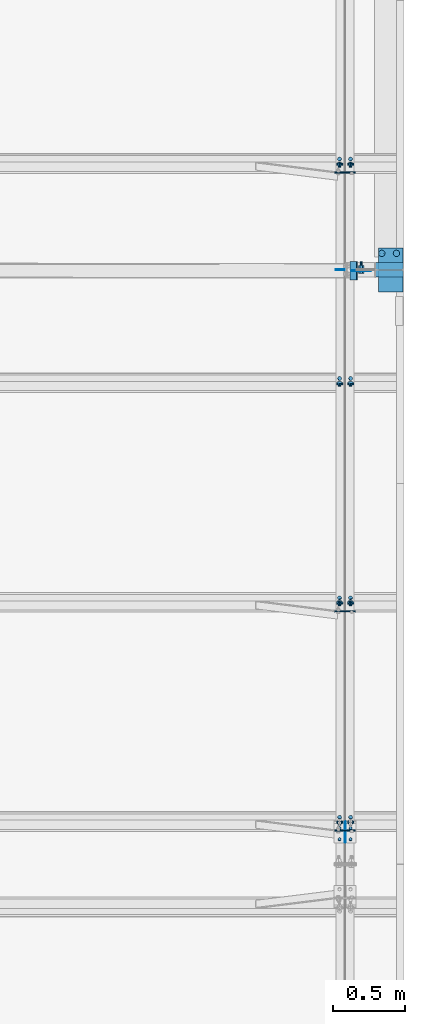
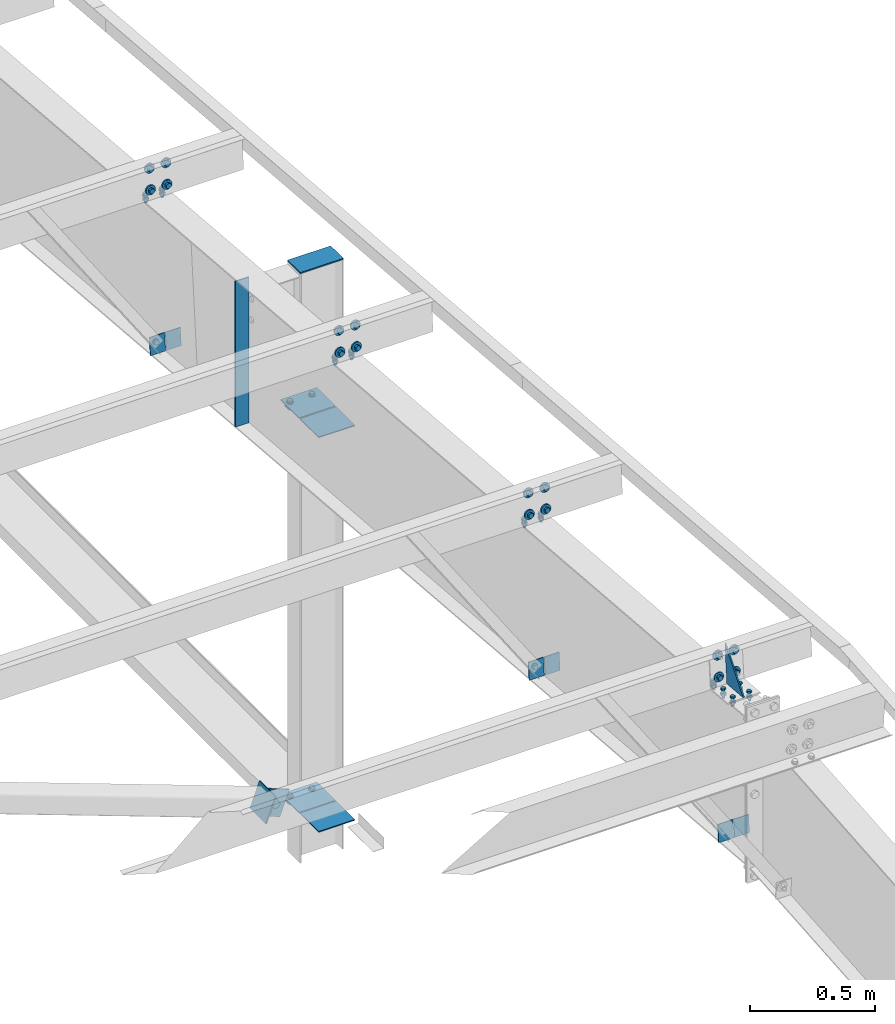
# One storey, part 111 of 185: 16 mechanical fasteners, 15 discrete accessories, 8 elements without a shape of their own.
"""IFC2X3 building model written with IfcOpenShell, lengths in millimetres."""

import ifcopenshell
import ifcopenshell.guid

model = None  # the IFC model being written
_history = None  # IfcOwnerHistory: only IFC2X3 demands one
_inside = {}  # id of a spatial element -> (the spatial element, [elements in it])
_under = {}  # id of a project, library or spatial element -> (it, [spatial elements below it])
_declared = {}  # id of a project -> (the project, [libraries it declares])
_typed = {}  # id of a type object -> (the type object, [elements of that type])
_made_of = {}  # id of a material, layer set ... -> (it, [elements and type objects made of it])


def new_model(schema):
    """Start an empty IFC model of exactly this schema.

    Asked for "IFC4X3", IfcOpenShell would pick the latest addendum, in which some entities
    have other attributes; the version numbers below select the first issue.
    IFC2X3 requires an IfcOwnerHistory on every rooted entity: one is made here for all.
    """
    global model, _history
    if schema == "IFC4X3":
        model = ifcopenshell.file(schema_version=(4, 3, 0, 0))
    else:
        model = ifcopenshell.file(schema=schema)
    _inside.clear()
    _under.clear()
    _declared.clear()
    _typed.clear()
    _made_of.clear()
    _history = None
    if model.schema == "IFC2X3":
        org = make("IfcOrganization", Name="unknown")
        user = make(
            "IfcPersonAndOrganization",
            ThePerson=make("IfcPerson", FamilyName="unknown"),
            TheOrganization=org,
        )
        app = make(
            "IfcApplication",
            ApplicationDeveloper=org,
            Version="unknown",
            ApplicationFullName="unknown",
            ApplicationIdentifier="unknown",
        )
        _history = make(
            "IfcOwnerHistory",
            OwningUser=user,
            OwningApplication=app,
            ChangeAction="ADDED",
            CreationDate=0,
        )
    return model


def make(cls, **values):
    """One entity of the class cls with the attributes given. An attribute that is None is left unset."""
    return model.create_entity(
        cls, **{name: value for name, value in values.items() if value is not None}
    )


def rooted(cls, **values):
    """An entity with a GlobalId (a new one), such as an element, a storey or a relation."""
    return make(cls, GlobalId=ifcopenshell.guid.new(), OwnerHistory=_history, **values)


def si_unit(unit_type, name, prefix=None):
    """IfcSIUnit, for example si_unit("LENGTHUNIT", "METRE", prefix="MILLI")."""
    return make("IfcSIUnit", UnitType=unit_type, Prefix=prefix, Name=name)


def assignment(units):
    """IfcUnitAssignment: the units of a project."""
    return None if units is None else make("IfcUnitAssignment", Units=units)


def point(xyz):
    """IfcCartesianPoint."""
    return None if xyz is None else make("IfcCartesianPoint", Coordinates=xyz)


def direction(xyz):
    """IfcDirection."""
    return None if xyz is None else make("IfcDirection", DirectionRatios=xyz)


def frame(location, z_axis=None, x_axis=None):
    """IfcAxis2Placement3D, a coordinate frame: its origin and axes. An axis left out is left unset."""
    return make(
        "IfcAxis2Placement3D",
        Location=point(location),
        Axis=direction(z_axis),
        RefDirection=direction(x_axis),
    )


def frame_2d(location, x_axis=None):
    """IfcAxis2Placement2D, a coordinate frame in the plane: its origin and x axis."""
    return make(
        "IfcAxis2Placement2D", Location=point(location), RefDirection=direction(x_axis)
    )


def origin_with_axes():
    """The frame at (0, 0, 0) with the z axis (0, 0, 1) and the x axis (1, 0, 0) written out."""
    return frame((0.0, 0.0, 0.0), z_axis=(0.0, 0.0, 1.0), x_axis=(1.0, 0.0, 0.0))


def origin_2d_with_axis():
    """The frame at (0, 0) in the plane with the x axis (1, 0) written out."""
    return frame_2d((0.0, 0.0), x_axis=(1.0, 0.0))


def place(relative_to, where):
    """IfcLocalPlacement: puts the frame where relative to a parent placement (None: the world)."""
    return make(
        "IfcLocalPlacement", PlacementRelTo=relative_to, RelativePlacement=where
    )


def context(
    kind, dimensions, precision=None, world=None, true_north=None, identifier=None
):
    """IfcGeometricRepresentationContext, for example the 3D "Model" context."""
    return make(
        "IfcGeometricRepresentationContext",
        ContextIdentifier=identifier,
        ContextType=kind,
        CoordinateSpaceDimension=dimensions,
        Precision=precision,
        WorldCoordinateSystem=world,
        TrueNorth=true_north,
    )


def subcontext(parent, identifier, kind, view, scale=None):
    """IfcGeometricRepresentationSubContext, for example "Body" below "Model"."""
    return make(
        "IfcGeometricRepresentationSubContext",
        ContextIdentifier=identifier,
        ContextType=kind,
        ParentContext=parent,
        TargetScale=scale,
        TargetView=view,
    )


def project(units=None, contexts=None):
    """IfcProject with its units and contexts."""
    return rooted(
        "IfcProject",
        Name="project",
        RepresentationContexts=contexts,
        UnitsInContext=assignment(units),
    )


def spatial(cls, under=None, at=None, **own):
    """A site, building, storey or space (cls), placed at a placement, below another one or the project."""
    s = rooted(cls, ObjectPlacement=at, **own)
    if under is not None:
        _under.setdefault(under.id(), (under, []))[1].append(s)
    return s


def polyline(points):
    """IfcPolyline through the points."""
    return make("IfcPolyline", Points=[point(p) for p in points])


def circle_curve(where, radius):
    """IfcCircle in the frame where."""
    return make("IfcCircle", Position=where, Radius=radius)


def parameter(value):
    """IfcParameterValue: where a trimmed curve begins or ends, as a parameter of its basis curve."""
    return model.create_entity("IfcParameterValue", value)


def trimmed(basis, trim1, trim2, sense, master):
    """IfcTrimmedCurve: the piece of a basis curve between two trims."""
    return make(
        "IfcTrimmedCurve",
        BasisCurve=basis,
        Trim1=trim1,
        Trim2=trim2,
        SenseAgreement=sense,
        MasterRepresentation=master,
    )


def segment(curve, same_sense, transition):
    """IfcCompositeCurveSegment."""
    return make(
        "IfcCompositeCurveSegment",
        Transition=transition,
        SameSense=same_sense,
        ParentCurve=curve,
    )


def composite_curve(segments, self_intersect=None):
    """IfcCompositeCurve: segments joined end to end."""
    return make("IfcCompositeCurve", Segments=segments, SelfIntersect=self_intersect)


def profile(cls, at=None, kind="AREA", **sizes):
    """A parametric profile (cls). Its sizes go by their IFC names, for example OverallWidth=200.0."""
    return make(cls, ProfileType=kind, Position=at, **sizes)


def rectangle(**sizes):
    """IfcRectangleProfileDef."""
    return profile("IfcRectangleProfileDef", **sizes)


def circle(**sizes):
    """IfcCircleProfileDef."""
    return profile("IfcCircleProfileDef", **sizes)


def outline(outer, holes=None, kind="AREA"):
    """IfcArbitraryClosedProfileDef: a profile drawn as a closed curve; with holes, ...WithVoids."""
    if holes is None:
        return make("IfcArbitraryClosedProfileDef", ProfileType=kind, OuterCurve=outer)
    return make(
        "IfcArbitraryProfileDefWithVoids",
        ProfileType=kind,
        OuterCurve=outer,
        InnerCurves=holes,
    )


def extrude(swept, where, along, depth):
    """IfcExtrudedAreaSolid: the profile swept, set in the frame where, extruded along a direction by depth."""
    return make(
        "IfcExtrudedAreaSolid",
        SweptArea=swept,
        Position=where,
        ExtrudedDirection=direction(along),
        Depth=depth,
    )


def shape(context_of_items, identifier, shape_type, items):
    """IfcShapeRepresentation: the items that make up one representation, for example the "Body"."""
    return make(
        "IfcShapeRepresentation",
        ContextOfItems=context_of_items,
        RepresentationIdentifier=identifier,
        RepresentationType=shape_type,
        Items=items,
    )


def source(mapping_origin, context_of_items, identifier, shape_type, items):
    """IfcRepresentationMap: a shape defined once, which mapped items show again and again."""
    return make(
        "IfcRepresentationMap",
        MappingOrigin=mapping_origin,
        MappedRepresentation=shape(context_of_items, identifier, shape_type, items),
    )


def transform(
    local_origin,
    x_axis=None,
    y_axis=None,
    z_axis=None,
    scale=None,
    scale2=None,
    scale3=None,
    uniform=True,
):
    """IfcCartesianTransformationOperator3D, or its non-uniform kind. x_axis, y_axis, z_axis: its Axis1, 2, 3."""
    if uniform:
        return make(
            "IfcCartesianTransformationOperator3D",
            Axis1=direction(x_axis),
            Axis2=direction(y_axis),
            LocalOrigin=point(local_origin),
            Scale=scale,
            Axis3=direction(z_axis),
        )
    return make(
        "IfcCartesianTransformationOperator3DnonUniform",
        Axis1=direction(x_axis),
        Axis2=direction(y_axis),
        LocalOrigin=point(local_origin),
        Scale=scale,
        Axis3=direction(z_axis),
        Scale2=scale2,
        Scale3=scale3,
    )


def mapped(mapping_source, mapping_target):
    """IfcMappedItem: shows the shape of a source again, moved by a transform."""
    return make(
        "IfcMappedItem", MappingSource=mapping_source, MappingTarget=mapping_target
    )


def material(Name=None, Category=None):
    """IfcMaterial."""
    return make("IfcMaterial", Name=Name, Category=Category)


def made_of(thing, what):
    """Note that an element or type object is made of a material, layer set ...; save() writes the relation."""
    if what is not None:
        _made_of.setdefault(what.id(), (what, []))[1].append(thing)
    return thing


def type_object(cls, material=None, **own):
    """A type object (cls), such as IfcWallType, which elements share."""
    return made_of(rooted(cls, **own), material)


def element(
    cls,
    number,
    at=None,
    inside=None,
    cuts=None,
    type_object=None,
    material=None,
    context=None,
    identifier="Body",
    shape_type=None,
    held_by="IfcProductDefinitionShape",
    body=None,
    shapes=None,
    **own,
):
    """One element of the class cls, such as IfcWall. Its Tag is "e" and its number.

    at: its placement. inside: the storey or other place that contains it. cuts: it is an
    opening in that element (IfcRelVoidsElement). A single representation is given by context,
    identifier, shape_type and body (its items); several are given by shapes. held_by: the class
    of the entity that holds the representations. save() writes the other relations.
    """
    e = rooted(cls, Tag="e%d" % number, ObjectPlacement=at, **own)
    if body is not None:
        shapes = [shape(context, identifier, shape_type, body)]
    if shapes is not None:
        e.Representation = make(held_by, Representations=shapes)
    if inside is not None:
        _inside.setdefault(inside.id(), (inside, []))[1].append(e)
    if cuts is not None:
        rooted(
            "IfcRelVoidsElement", RelatingBuildingElement=cuts, RelatedOpeningElement=e
        )
    if type_object is not None:
        _typed.setdefault(type_object.id(), (type_object, []))[1].append(e)
    return made_of(e, material)


def aggregate(whole, parts):
    """IfcRelAggregates: a whole, such as a stair, and the parts it consists of."""
    return rooted("IfcRelAggregates", RelatingObject=whole, RelatedObjects=parts)


def save(model, path):
    """Write the relations noted so far, then the file.

    IfcRelAggregates (storeys below a building ...), IfcRelContainedInSpatialStructure (elements
    in a storey), IfcRelDefinesByType, IfcRelAssociatesMaterial and IfcRelDeclares: one each for
    every whole, place, type object, material and project.
    """
    for whole, parts in _under.values():
        aggregate(whole, parts)
    for where, things in _inside.values():
        rooted(
            "IfcRelContainedInSpatialStructure",
            RelatedElements=things,
            RelatingStructure=where,
        )
    for kind, things in _typed.values():
        rooted("IfcRelDefinesByType", RelatedObjects=things, RelatingType=kind)
    for what, things in _made_of.values():
        rooted("IfcRelAssociatesMaterial", RelatedObjects=things, RelatingMaterial=what)
    for by, libraries in _declared.values():
        rooted("IfcRelDeclares", RelatingContext=by, RelatedDefinitions=libraries)
    model.write(path)


model = new_model("IFC2X3")

# Units and contexts
model_context = context("Model", 3, precision=1e-05, world=origin_with_axes())
body_context = subcontext(model_context, "Body", "Model", "MODEL_VIEW")
ifc_project = project(units=[si_unit("LENGTHUNIT", "METRE", prefix="MILLI"), si_unit("AREAUNIT", "SQUARE_METRE"), si_unit("VOLUMEUNIT", "CUBIC_METRE"), si_unit("MASSUNIT", "GRAM", prefix="KILO"), si_unit("TIMEUNIT", "SECOND"), si_unit("PLANEANGLEUNIT", "RADIAN"), si_unit("SOLIDANGLEUNIT", "STERADIAN"), si_unit("THERMODYNAMICTEMPERATUREUNIT", "DEGREE_CELSIUS"), si_unit("LUMINOUSINTENSITYUNIT", "LUMEN")], contexts=[model_context])

# Site, building, storey
site_placement = place(None, origin_with_axes())
site = spatial("IfcSite", under=ifc_project, at=site_placement, Name="Undefined", CompositionType="ELEMENT")
building_placement = place(site_placement, origin_with_axes())
building = spatial("IfcBuilding", under=site, at=building_placement, Name="Undefined", CompositionType="ELEMENT")
storey_placement = place(building_placement, origin_with_axes())
storey = spatial("IfcBuildingStorey", under=building, at=storey_placement, Name="Undefined", CompositionType="ELEMENT", Elevation=0.0)

# Assembly, discrete accessories
assembly_1_placement = place(storey_placement, origin_with_axes())
assembly_1 = element("IfcElementAssembly", 1, at=assembly_1_placement, inside=storey, Name="Steel Assembly", AssemblyPlace="NOTDEFINED", PredefinedType="RIGID_FRAME")
ifc_material_1 = material(Name="STEEL/55")
discrete_accessory_type_1 = type_object("IfcDiscreteAccessoryType", Name="XP-38")
discrete_accessory_1_placement = place(assembly_1_placement, frame((44868.703125, 20113.702788, 6098.38125), z_axis=(-1.0, 0.0, 0.0), x_axis=(0.0, -1.0, 0.0)))
discrete_accessory_1 = element("IfcDiscreteAccessory", 2, at=discrete_accessory_1_placement, type_object=discrete_accessory_type_1, material=ifc_material_1, Name="XP-38", ObjectType="PL3/16\"X5 7/8\"", context=body_context, shape_type="SweptSolid", body=[
    extrude(rectangle(XDim=4.7625, YDim=168.275, at=origin_2d_with_axis()), frame((149.224999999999, 0.0, 0.0), z_axis=(-1.0, 0.0, 0.0), x_axis=(0.0, -1.0, 0.0)), (0.0, 0.0, 1.0), 149.2),
])
discrete_accessory_2_placement = place(assembly_1_placement, frame((44868.703125, 20119.897212, 6098.38125), z_axis=(-1.0, 0.0, 0.0), x_axis=(0.0, 1.0, 0.0)))
discrete_accessory_2 = element("IfcDiscreteAccessory", 3, at=discrete_accessory_2_placement, type_object=discrete_accessory_type_1, material=ifc_material_1, Name="XP-38", ObjectType="PL3/16\"X5 7/8\"", context=body_context, shape_type="SweptSolid", body=[
    extrude(rectangle(XDim=4.7625, YDim=168.275, at=origin_2d_with_axis()), frame((149.224999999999, 0.0, 0.0), z_axis=(-1.0, 0.0, 0.0), x_axis=(0.0, -1.0, 0.0)), (0.0, 0.0, 1.0), 149.2),
])
discrete_accessory_3_placement = place(assembly_1_placement, frame((44868.703125, 20113.702788, 4167.98125), z_axis=(-1.0, 0.0, 0.0), x_axis=(0.0, -1.0, 0.0)))
discrete_accessory_3 = element("IfcDiscreteAccessory", 4, at=discrete_accessory_3_placement, type_object=discrete_accessory_type_1, material=ifc_material_1, Name="XP-38", ObjectType="PL3/16\"X5 7/8\"", context=body_context, shape_type="SweptSolid", body=[
    extrude(rectangle(XDim=4.7625, YDim=168.275, at=origin_2d_with_axis()), frame((149.224999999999, 0.0, 0.0), z_axis=(-1.0, 0.0, 0.0), x_axis=(0.0, -1.0, 0.0)), (0.0, 0.0, 1.0), 149.2),
])
discrete_accessory_4_placement = place(assembly_1_placement, frame((44868.703125, 20119.897212, 4167.98125), z_axis=(-1.0, 0.0, 0.0), x_axis=(0.0, 1.0, 0.0)))
discrete_accessory_4 = element("IfcDiscreteAccessory", 5, at=discrete_accessory_4_placement, type_object=discrete_accessory_type_1, material=ifc_material_1, Name="XP-38", ObjectType="PL3/16\"X5 7/8\"", context=body_context, shape_type="SweptSolid", body=[
    extrude(rectangle(XDim=4.7625, YDim=168.275, at=origin_2d_with_axis()), frame((149.224999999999, 0.0, 0.0), z_axis=(-1.0, 0.0, 0.0), x_axis=(0.0, -1.0, 0.0)), (0.0, 0.0, 1.0), 149.2),
])

# Assembly, discrete accessory
assembly_2_placement = place(storey_placement, origin_with_axes())
assembly_2 = element("IfcElementAssembly", 6, at=assembly_2_placement, inside=storey, Name="Steel Assembly", AssemblyPlace="NOTDEFINED", PredefinedType="RIGID_FRAME")
discrete_accessory_type_2 = type_object("IfcDiscreteAccessoryType", Name="Stiff")
discrete_accessory_5_placement = place(assembly_2_placement, frame((44517.469, 20116.8054741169, 6875.85891866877), z_axis=(-1.0, 0.0, 0.0), x_axis=(0.0, 0.0, -1.0)))
discrete_accessory_5 = element("IfcDiscreteAccessory", 7, at=discrete_accessory_5_placement, type_object=discrete_accessory_type_2, material=ifc_material_1, Name="Stiff", ObjectType="FL1/4\"X2 1/2\"", context=body_context, shape_type="SweptSolid", body=[
    extrude(rectangle(XDim=6.35, YDim=63.5, at=origin_2d_with_axis()), frame((712.793737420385, 0.0, 0.0), z_axis=(-1.0, 0.0, 0.0), x_axis=(0.0, -1.0, 0.0)), (0.0, 0.0, 1.0), 712.8),
])

# Assembly, mechanical fasteners
assembly_3_placement = place(storey_placement, origin_with_axes())
assembly_3 = element("IfcElementAssembly", 8, at=assembly_3_placement, inside=storey, Name="Steel Assembly", AssemblyPlace="NOTDEFINED", PredefinedType="RIGID_FRAME")
ifc_material_2 = material(Name="Undefined")
discrete_accessory_type_3 = type_object("IfcDiscreteAccessoryType", Name="Bolt assembly")
shared_shape_1 = source(origin_with_axes(), body_context, "Body", "SweptSolid", [
    extrude(circle(Radius=7.14374971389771, at=origin_2d_with_axis()), frame((0.0, -1.59000001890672, 0.0), z_axis=(0.0, 1.0, 0.0), x_axis=(1.0, 0.0, 0.0)), (0.0, 0.0, 1.0), 3.3),
    extrude(circle(Radius=13.4937496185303, at=origin_2d_with_axis()), frame((0.0, -5.5587500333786, 0.0), z_axis=(0.0, 1.0, 0.0), x_axis=(1.0, 0.0, 0.0)), (0.0, 0.0, 1.0), 4.0),
    extrude(circle(Radius=22.2250003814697, at=origin_2d_with_axis()), frame((0.0, 1.5900000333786, 0.0), z_axis=(0.0, 1.0, 0.0), x_axis=(1.0, 0.0, 0.0)), (0.0, 0.0, 1.0), 7.9),
    extrude(outline(polyline([(12.8316099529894, 0.0), (6.4158049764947, 11.1125001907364), (-6.4158049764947, 11.1125001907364), (-12.8316099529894, 0.0), (-6.4158049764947, -11.1125001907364), (6.4158049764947, -11.1125001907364), (12.8316099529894, 0.0)])), frame((0.0, 9.5275000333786, 0.0), z_axis=(0.0, 1.0, 0.0), x_axis=(1.0, 0.0, 0.0)), (0.0, 0.0, 1.0), 12.3),
])
mechanical_fastener_1_placement = place(assembly_3_placement, frame((44513.5, 20857.735218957, 6973.87931659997), z_axis=(-1.0, 0.0, 0.0), x_axis=(0.0, -0.0830454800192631, -0.996545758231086)))
mechanical_fastener_1 = element("IfcMechanicalFastener", 9, at=mechanical_fastener_1_placement, type_object=discrete_accessory_type_3, material=ifc_material_2, Name="Bolt assembly", NominalDiameter=12.6999998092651, NominalLength=38.0999984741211, context=body_context, shape_type="MappedRepresentation", body=[
    mapped(shared_shape_1, transform((0.0, 0.0, 0.0))),
    mapped(shared_shape_1, transform((101.599998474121, 0.0, 0.0))),
])
mechanical_fastener_2_placement = place(assembly_3_placement, frame((44589.7, 20857.735218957, 6973.87931659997), z_axis=(-1.0, 0.0, 0.0), x_axis=(0.0, -0.0830454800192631, -0.996545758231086)))
mechanical_fastener_2 = element("IfcMechanicalFastener", 10, at=mechanical_fastener_2_placement, type_object=discrete_accessory_type_3, material=ifc_material_2, Name="Bolt assembly", NominalDiameter=12.6999998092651, NominalLength=38.0999984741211, context=body_context, shape_type="MappedRepresentation", body=[
    mapped(shared_shape_1, transform((0.0, 0.0, 0.0))),
    mapped(shared_shape_1, transform((101.599998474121, 0.0, 0.0))),
])

assembly_4_placement = place(storey_placement, origin_with_axes())
assembly_4 = element("IfcElementAssembly", 11, at=assembly_4_placement, inside=storey, Name="Steel Assembly", AssemblyPlace="NOTDEFINED", PredefinedType="RIGID_FRAME")
mechanical_fastener_3_placement = place(assembly_4_placement, frame((44513.5, 19338.999483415, 7100.44062815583), z_axis=(-1.0, 0.0, 0.0), x_axis=(0.0, -0.0830454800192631, -0.996545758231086)))
mechanical_fastener_3 = element("IfcMechanicalFastener", 12, at=mechanical_fastener_3_placement, type_object=discrete_accessory_type_3, material=ifc_material_2, Name="Bolt assembly", NominalDiameter=12.6999998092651, NominalLength=38.0999984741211, context=body_context, shape_type="MappedRepresentation", body=[
    mapped(shared_shape_1, transform((0.0, 0.0, 0.0))),
    mapped(shared_shape_1, transform((101.599998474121, 0.0, 0.0))),
])
mechanical_fastener_4_placement = place(assembly_4_placement, frame((44589.7, 19338.999483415, 7100.44062815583), z_axis=(-1.0, 0.0, 0.0), x_axis=(0.0, -0.0830454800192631, -0.996545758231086)))
mechanical_fastener_4 = element("IfcMechanicalFastener", 13, at=mechanical_fastener_4_placement, type_object=discrete_accessory_type_3, material=ifc_material_2, Name="Bolt assembly", NominalDiameter=12.6999998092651, NominalLength=38.0999984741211, context=body_context, shape_type="MappedRepresentation", body=[
    mapped(shared_shape_1, transform((0.0, 0.0, 0.0))),
    mapped(shared_shape_1, transform((101.599998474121, 0.0, 0.0))),
])

assembly_5_placement = place(storey_placement, origin_with_axes())
assembly_5 = element("IfcElementAssembly", 14, at=assembly_5_placement, inside=storey, Name="Steel Assembly", AssemblyPlace="NOTDEFINED", PredefinedType="RIGID_FRAME")
mechanical_fastener_5_placement = place(assembly_5_placement, frame((44513.5, 17820.263747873, 7227.00193971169), z_axis=(-1.0, 0.0, 0.0), x_axis=(0.0, -0.0830454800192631, -0.996545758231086)))
mechanical_fastener_5 = element("IfcMechanicalFastener", 15, at=mechanical_fastener_5_placement, type_object=discrete_accessory_type_3, material=ifc_material_2, Name="Bolt assembly", NominalDiameter=12.6999998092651, NominalLength=38.0999984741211, context=body_context, shape_type="MappedRepresentation", body=[
    mapped(shared_shape_1, transform((0.0, 0.0, 0.0))),
    mapped(shared_shape_1, transform((101.599998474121, 0.0, 0.0))),
])
mechanical_fastener_6_placement = place(assembly_5_placement, frame((44589.7, 17820.263747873, 7227.00193971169), z_axis=(-1.0, 0.0, 0.0), x_axis=(0.0, -0.0830454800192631, -0.996545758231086)))
mechanical_fastener_6 = element("IfcMechanicalFastener", 16, at=mechanical_fastener_6_placement, type_object=discrete_accessory_type_3, material=ifc_material_2, Name="Bolt assembly", NominalDiameter=12.6999998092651, NominalLength=38.0999984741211, context=body_context, shape_type="MappedRepresentation", body=[
    mapped(shared_shape_1, transform((0.0, 0.0, 0.0))),
    mapped(shared_shape_1, transform((101.599998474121, 0.0, 0.0))),
])

assembly_6_placement = place(storey_placement, origin_with_axes())
assembly_6 = element("IfcElementAssembly", 17, at=assembly_6_placement, inside=storey, Name="Steel Assembly", AssemblyPlace="NOTDEFINED", PredefinedType="RIGID_FRAME")
mechanical_fastener_7_placement = place(assembly_6_placement, frame((44513.5, 16301.5280123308, 7353.56325126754), z_axis=(-1.0, 0.0, 0.0), x_axis=(0.0, -0.0830454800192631, -0.996545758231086)))
mechanical_fastener_7 = element("IfcMechanicalFastener", 18, at=mechanical_fastener_7_placement, type_object=discrete_accessory_type_3, material=ifc_material_2, Name="Bolt assembly", NominalDiameter=12.6999998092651, NominalLength=38.0999984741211, context=body_context, shape_type="MappedRepresentation", body=[
    mapped(shared_shape_1, transform((0.0, 0.0, 0.0))),
    mapped(shared_shape_1, transform((101.599998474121, 0.0, 0.0))),
])
mechanical_fastener_8_placement = place(assembly_6_placement, frame((44589.7, 16301.5280123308, 7353.56325126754), z_axis=(-1.0, 0.0, 0.0), x_axis=(0.0, -0.0830454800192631, -0.996545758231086)))
mechanical_fastener_8 = element("IfcMechanicalFastener", 19, at=mechanical_fastener_8_placement, type_object=discrete_accessory_type_3, material=ifc_material_2, Name="Bolt assembly", NominalDiameter=12.6999998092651, NominalLength=38.0999984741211, context=body_context, shape_type="MappedRepresentation", body=[
    mapped(shared_shape_1, transform((0.0, 0.0, 0.0))),
    mapped(shared_shape_1, transform((101.599998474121, 0.0, 0.0))),
])

# Assembly, discrete accessories
assembly_7_placement = place(storey_placement, origin_with_axes())
assembly_7 = element("IfcElementAssembly", 20, at=assembly_7_placement, inside=storey, Name="Steel Assembly", AssemblyPlace="NOTDEFINED", PredefinedType="RIGID_FRAME")
discrete_accessory_type_4 = type_object("IfcDiscreteAccessoryType", Name="PLATE")
discrete_accessory_6_placement = place(assembly_7_placement, frame((44684.6031590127, 20110.8379977, 4326.01829643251), z_axis=(0.938772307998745, -0.000380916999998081, -0.34453796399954), x_axis=(-0.344537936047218, 0.000139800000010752, -0.938772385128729)))
discrete_accessory_6 = element("IfcDiscreteAccessory", 21, at=discrete_accessory_6_placement, type_object=discrete_accessory_type_4, material=ifc_material_1, Name="PLATE", ObjectType="FL1/4\"X4\"", context=body_context, shape_type="SweptSolid", body=[
    extrude(rectangle(XDim=6.35, YDim=101.6, at=origin_2d_with_axis()), frame((127.000000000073, 3.63797855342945e-12, 7.27595761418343e-12), z_axis=(-1.0, 0.0, 0.0), x_axis=(0.0, -1.0, 0.0)), (0.0, 0.0, 1.0), 127.0),
])
discrete_accessory_7_placement = place(assembly_7_placement, frame((44590.1766058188, 20110.8763122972, 4225.39064015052), z_axis=(-0.000405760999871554, -0.999999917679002, 0.0), x_axis=(0.344537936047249, -0.000139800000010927, 0.938772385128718)))
discrete_accessory_7 = element("IfcDiscreteAccessory", 22, at=discrete_accessory_7_placement, type_object=discrete_accessory_type_4, material=ifc_material_1, Name="PLATE", ObjectType="FL1/4\"X5\"", context=body_context, shape_type="SweptSolid", body=[
    extrude(rectangle(XDim=6.35, YDim=127.0, at=origin_2d_with_axis()), frame((127.000000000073, 3.63797855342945e-12, 7.27595761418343e-12), z_axis=(-1.0, 0.0, 0.0), x_axis=(0.0, -1.0, 0.0)), (0.0, 0.0, 1.0), 127.0),
])
aggregate(assembly_7, [discrete_accessory_6, discrete_accessory_7])

# Discrete accessory
discrete_accessory_8_placement = place(assembly_1_placement, frame((44958.0, 20116.8, 6850.0625), z_axis=(0.0, -1.0, 0.0), x_axis=(-1.0, 0.0, 0.0)))
discrete_accessory_8 = element("IfcDiscreteAccessory", 23, at=discrete_accessory_8_placement, type_object=discrete_accessory_type_4, material=ifc_material_1, Name="PLATE", ObjectType="FL1/4\"X4\"", context=body_context, shape_type="SweptSolid", body=[
    extrude(rectangle(XDim=6.35, YDim=101.6, at=origin_2d_with_axis()), frame((200.025000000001, 0.0, 0.0), z_axis=(-1.0, 0.0, 0.0), x_axis=(0.0, -1.0, 0.0)), (0.0, 0.0, 1.0), 200.0),
])

# Assembly, discrete accessory
assembly_8_placement = place(storey_placement, origin_with_axes())
assembly_8 = element("IfcElementAssembly", 24, at=assembly_8_placement, inside=storey, Name="Steel Assembly", AssemblyPlace="NOTDEFINED", PredefinedType="RIGID_FRAME")
discrete_accessory_9_placement = place(assembly_8_placement, frame((44551.6, 16150.1817775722, 7219.61919681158), z_axis=(1.0, 0.0, 0.0), x_axis=(0.0, 0.996545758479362, -0.0830454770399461)))
discrete_accessory_9 = element("IfcDiscreteAccessory", 25, at=discrete_accessory_9_placement, type_object=discrete_accessory_type_4, material=ifc_material_1, Name="PLATE", ObjectType="FL1/4\"X5 1/4\"", context=body_context, shape_type="SweptSolid", body=[
    extrude(outline(polyline([(0.0, 0.0), (133.350006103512, 3.70164343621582e-10), (133.350006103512, 190.500000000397), (0.0, 0.0)])), frame((0.0, -9.09494701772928e-13, -3.2), z_axis=(0.0, 0.0, 1.0), x_axis=(1.0, 0.0, 0.0)), (0.0, 0.0, 1.0), 6.4),
])

# Discrete accessory
discrete_accessory_type_5 = type_object("IfcDiscreteAccessoryType", Name="FLANGE BRACE FLIP")
discrete_accessory_10_placement = place(assembly_2_placement, frame((44549.89185, 16234.5442340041, 6529.19086769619), z_axis=(0.0, 0.0830454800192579, 0.996545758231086), x_axis=(-1.0, 0.0, 0.0)))
discrete_accessory_10 = element("IfcDiscreteAccessory", 26, at=discrete_accessory_10_placement, type_object=discrete_accessory_type_5, material=ifc_material_1, Name="FLANGE BRACE FLIP", ObjectType="PL1/8\"X2 3/4\"", context=body_context, shape_type="SweptSolid", body=[
    extrude(rectangle(XDim=3.416, YDim=85.725, at=origin_2d_with_axis()), frame((69.8499999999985, 0.0, 0.0), z_axis=(-1.0, 0.0, 0.0), x_axis=(0.0, -1.0, 0.0)), (0.0, 0.0, 1.0), 69.8),
])

discrete_accessory_11_placement = place(assembly_2_placement, frame((44553.30815, 16234.5442340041, 6529.19086769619), z_axis=(0.0, 0.0830454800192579, 0.996545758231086), x_axis=(1.0, 0.0, 0.0)))
discrete_accessory_11 = element("IfcDiscreteAccessory", 27, at=discrete_accessory_11_placement, type_object=discrete_accessory_type_5, material=ifc_material_1, Name="FLANGE BRACE FLIP", ObjectType="PL1/8\"X2 3/4\"", context=body_context, shape_type="SweptSolid", body=[
    extrude(rectangle(XDim=3.416, YDim=85.725, at=origin_2d_with_axis()), frame((69.8499999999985, 0.0, 0.0), z_axis=(-1.0, 0.0, 0.0), x_axis=(0.0, -1.0, 0.0)), (0.0, 0.0, 1.0), 69.8),
])

discrete_accessory_12_placement = place(assembly_2_placement, frame((44549.89185, 17753.2799695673, 6402.62955639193), z_axis=(0.0, 0.0830454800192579, 0.996545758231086), x_axis=(-1.0, 0.0, 0.0)))
discrete_accessory_12 = element("IfcDiscreteAccessory", 28, at=discrete_accessory_12_placement, type_object=discrete_accessory_type_5, material=ifc_material_1, Name="FLANGE BRACE FLIP", ObjectType="PL1/8\"X2 3/4\"", context=body_context, shape_type="SweptSolid", body=[
    extrude(rectangle(XDim=3.416, YDim=85.725, at=origin_2d_with_axis()), frame((69.8499999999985, 0.0, 0.0), z_axis=(-1.0, 0.0, 0.0), x_axis=(0.0, -1.0, 0.0)), (0.0, 0.0, 1.0), 69.8),
])

discrete_accessory_13_placement = place(assembly_2_placement, frame((44553.30815, 17753.2799695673, 6402.62955639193), z_axis=(0.0, 0.0830454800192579, 0.996545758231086), x_axis=(1.0, 0.0, 0.0)))
discrete_accessory_13 = element("IfcDiscreteAccessory", 29, at=discrete_accessory_13_placement, type_object=discrete_accessory_type_5, material=ifc_material_1, Name="FLANGE BRACE FLIP", ObjectType="PL1/8\"X2 3/4\"", context=body_context, shape_type="SweptSolid", body=[
    extrude(rectangle(XDim=3.416, YDim=85.725, at=origin_2d_with_axis()), frame((69.8499999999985, 0.0, 0.0), z_axis=(-1.0, 0.0, 0.0), x_axis=(0.0, -1.0, 0.0)), (0.0, 0.0, 1.0), 69.8),
])

discrete_accessory_14_placement = place(assembly_2_placement, frame((44549.89185, 20790.7514406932, 6149.50693378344), z_axis=(0.0, 0.0830454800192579, 0.996545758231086), x_axis=(-1.0, 0.0, 0.0)))
discrete_accessory_14 = element("IfcDiscreteAccessory", 30, at=discrete_accessory_14_placement, type_object=discrete_accessory_type_5, material=ifc_material_1, Name="FLANGE BRACE FLIP", ObjectType="PL1/8\"X2 3/4\"", context=body_context, shape_type="SweptSolid", body=[
    extrude(rectangle(XDim=3.416, YDim=85.725, at=origin_2d_with_axis()), frame((69.8499999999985, 0.0, 0.0), z_axis=(-1.0, 0.0, 0.0), x_axis=(0.0, -1.0, 0.0)), (0.0, 0.0, 1.0), 69.8),
])

discrete_accessory_15_placement = place(assembly_2_placement, frame((44553.30815, 20790.7514406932, 6149.50693378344), z_axis=(0.0, 0.0830454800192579, 0.996545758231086), x_axis=(1.0, 0.0, 0.0)))
discrete_accessory_15 = element("IfcDiscreteAccessory", 31, at=discrete_accessory_15_placement, type_object=discrete_accessory_type_5, material=ifc_material_1, Name="FLANGE BRACE FLIP", ObjectType="PL1/8\"X2 3/4\"", context=body_context, shape_type="SweptSolid", body=[
    extrude(rectangle(XDim=3.416, YDim=85.725, at=origin_2d_with_axis()), frame((69.8499999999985, 0.0, 0.0), z_axis=(-1.0, 0.0, 0.0), x_axis=(0.0, -1.0, 0.0)), (0.0, 0.0, 1.0), 69.8),
])

aggregate(assembly_2, [discrete_accessory_5, discrete_accessory_10, discrete_accessory_11, discrete_accessory_12, discrete_accessory_13, discrete_accessory_14, discrete_accessory_15])

# Mechanical fastener
shared_shape_2 = source(origin_with_axes(), body_context, "Body", "SweptSolid", [
    extrude(circle(Radius=10.3187494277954, at=origin_2d_with_axis()), frame((0.0, -12.2031252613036, 0.0), z_axis=(0.0, 1.0, 0.0), x_axis=(1.0, 0.0, 0.0)), (0.0, 0.0, 1.0), 6.4),
    extrude(circle(Radius=10.3187494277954, at=origin_2d_with_axis()), frame((0.0, -6.44999999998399, 0.0), z_axis=(0.0, 1.0, 0.0), x_axis=(1.0, 0.0, 0.0)), (0.0, 0.0, 1.0), 6.4),
    extrude(outline(polyline([(18.3308710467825, 0.0), (9.16543552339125, 15.8750000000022), (-9.16543552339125, 15.8750000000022), (-18.3308710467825, 0.0), (-9.16543552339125, -15.8750000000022), (9.16543552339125, -15.8750000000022), (18.3308710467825, 0.0)])), frame((0.0, -28.1781252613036, 0.0), z_axis=(0.0, 1.0, 0.0), x_axis=(1.0, 0.0, 0.0)), (0.0, 0.0, 1.0), 11.9),
    extrude(circle(Radius=9.52499961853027, at=origin_2d_with_axis()), frame((0.0, -16.2718752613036, 0.0), z_axis=(0.0, 1.0, 0.0), x_axis=(1.0, 0.0, 0.0)), (0.0, 0.0, 1.0), 69.8),
    extrude(circle(Radius=18.2562503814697, at=origin_2d_with_axis()), frame((0.0, -16.2718752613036, 0.0), z_axis=(0.0, 1.0, 0.0), x_axis=(1.0, 0.0, 0.0)), (0.0, 0.0, 1.0), 4.0),
    extrude(circle(Radius=22.2250003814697, at=origin_2d_with_axis()), frame((0.0, 0.0, 0.0), z_axis=(0.0, 1.0, 0.0), x_axis=(1.0, 0.0, 0.0)), (0.0, 0.0, 1.0), 7.9),
    extrude(outline(polyline([(18.3308710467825, 0.0), (9.16543552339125, 15.8750000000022), (-9.16543552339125, 15.8750000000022), (-18.3308710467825, 0.0), (-9.16543552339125, -15.8750000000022), (9.16543552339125, -15.8750000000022), (18.3308710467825, 0.0)])), frame((0.0, 7.93750000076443, 0.0), z_axis=(0.0, 1.0, 0.0), x_axis=(1.0, 0.0, 0.0)), (0.0, 0.0, 1.0), 19.0),
])
mechanical_fastener_9_placement = place(assembly_1_placement, frame((44662.725, 20119.975, 4266.40625), z_axis=(0.0, 0.0, 1.0), x_axis=(1.0, 0.0, 0.0)))
mechanical_fastener_9 = element("IfcMechanicalFastener", 32, at=mechanical_fastener_9_placement, type_object=discrete_accessory_type_3, material=ifc_material_2, Name="Bolt assembly", NominalDiameter=19.0499992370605, NominalLength=69.8499984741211, context=body_context, shape_type="MappedRepresentation", body=[
    mapped(shared_shape_2, transform((0.0, 0.0, 0.0))),
])

shared_shape_3 = source(origin_with_axes(), body_context, "Body", "SweptSolid", [
    extrude(circle(Radius=7.14374971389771, at=origin_2d_with_axis()), frame((0.0, -0.1, 0.0), z_axis=(0.0, 1.0, 0.0), x_axis=(1.0, 0.0, 0.0)), (0.0, 0.0, 1.0), 6.5),
    extrude(circle(Radius=7.14374971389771, at=origin_2d_with_axis()), frame((0.0, -6.24999999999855, 0.0), z_axis=(0.0, 1.0, 0.0), x_axis=(1.0, 0.0, 0.0)), (0.0, 0.0, 1.0), 6.4),
    extrude(outline(polyline([(10.9985221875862, 0.0), (5.4992610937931, 9.52499961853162), (-5.4992610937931, 9.52499961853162), (-10.9985221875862, 0.0), (-5.4992610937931, -9.52499961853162), (5.4992610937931, -9.52499961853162), (10.9985221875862, 0.0)])), frame((0.0, -15.8750000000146, 0.0), z_axis=(0.0, 1.0, 0.0), x_axis=(1.0, 0.0, 0.0)), (0.0, 0.0, 1.0), 9.5),
    extrude(circle(Radius=6.34999990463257, at=origin_2d_with_axis()), frame((0.0, -6.34999953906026, 0.0), z_axis=(0.0, 1.0, 0.0), x_axis=(1.0, 0.0, 0.0)), (0.0, 0.0, 1.0), 38.1),
    extrude(outline(polyline([(12.8316099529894, 0.0), (6.4158049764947, 11.1125001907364), (-6.4158049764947, 11.1125001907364), (-12.8316099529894, 0.0), (-6.4158049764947, -11.1125001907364), (6.4158049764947, -11.1125001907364), (12.8316099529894, 0.0)])), frame((0.0, 6.35000000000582, 0.0), z_axis=(0.0, 1.0, 0.0), x_axis=(1.0, 0.0, 0.0)), (0.0, 0.0, 1.0), 12.3),
])
mechanical_fastener_10_placement = place(assembly_8_placement, frame((44551.6, 16250.9034878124, 7204.85371049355), z_axis=(1.0, 0.0, 0.0), x_axis=(0.0, -0.996545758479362, 0.0830454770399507)))
mechanical_fastener_10 = element("IfcMechanicalFastener", 33, at=mechanical_fastener_10_placement, type_object=discrete_accessory_type_3, material=ifc_material_2, Name="Bolt assembly", NominalDiameter=12.6999998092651, NominalLength=38.0999984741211, context=body_context, shape_type="MappedRepresentation", body=[
    mapped(shared_shape_3, transform((0.0, 0.0, -38.0999984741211))),
    mapped(shared_shape_3, transform((76.1999969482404, -1.38243194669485e-10, -38.0999984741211))),
    mapped(shared_shape_3, transform((0.0, 0.0, 38.0999984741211))),
    mapped(shared_shape_3, transform((76.1999969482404, -1.38243194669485e-10, 38.0999984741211))),
])

aggregate(assembly_8, [mechanical_fastener_10, discrete_accessory_9])

shared_shape_4 = source(origin_with_axes(), body_context, "Body", "SweptSolid", [
    extrude(circle(Radius=7.14374971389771, at=origin_2d_with_axis()), frame((0.0, -1.69000003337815, 0.0), z_axis=(0.0, 1.0, 0.0), x_axis=(1.0, 0.0, 0.0)), (0.0, 0.0, 1.0), 3.3),
    extrude(outline(composite_curve([segment(polyline([(-5.953125, 7.14374971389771), (5.953125, 7.14374971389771)]), True, "CONTINUOUS"), segment(trimmed(circle_curve(frame_2d((5.953125, 0.0), x_axis=(0.0, 1.0)), 7.1), [parameter(0.0)], [parameter(3.14159265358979)], False, "PARAMETER"), True, "CONTINUOUS"), segment(polyline([(5.953125, -7.14374971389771), (-5.953125, -7.14374971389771)]), True, "CONTINUOUS"), segment(trimmed(circle_curve(frame_2d((-5.953125, 0.0), x_axis=(0.0, -1.0)), 7.1), [parameter(0.0)], [parameter(3.14159265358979)], False, "PARAMETER"), True, "DISCONTINUOUS")], self_intersect=False)), frame((0.0, -4.66250000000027, 0.0), z_axis=(0.0, 1.0, 0.0), x_axis=(1.0, 0.0, 0.0)), (0.0, 0.0, 1.0), 4.8),
    extrude(outline(polyline([(10.9985221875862, 0.0), (5.4992610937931, 9.52499961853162), (-5.4992610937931, 9.52499961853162), (-10.9985221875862, 0.0), (-5.4992610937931, -9.52499961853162), (5.4992610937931, -9.52499961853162), (10.9985221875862, 0.0)])), frame((0.0, -18.2562496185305, 0.0), z_axis=(0.0, 1.0, 0.0), x_axis=(1.0, 0.0, 0.0)), (0.0, 0.0, 1.0), 9.5),
    extrude(circle(Radius=6.34999990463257, at=origin_2d_with_axis()), frame((0.0, -8.73125000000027, 0.0), z_axis=(0.0, 1.0, 0.0), x_axis=(1.0, 0.0, 0.0)), (0.0, 0.0, 1.0), 38.1),
    extrude(circle(Radius=13.4937496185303, at=origin_2d_with_axis()), frame((0.0, -8.73125000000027, 0.0), z_axis=(0.0, 1.0, 0.0), x_axis=(1.0, 0.0, 0.0)), (0.0, 0.0, 1.0), 4.0),
    extrude(circle(Radius=22.2250003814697, at=origin_2d_with_axis()), frame((0.0, 1.5900000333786, 0.0), z_axis=(0.0, 1.0, 0.0), x_axis=(1.0, 0.0, 0.0)), (0.0, 0.0, 1.0), 7.9),
    extrude(outline(polyline([(12.8316099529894, 0.0), (6.4158049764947, 11.1125001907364), (-6.4158049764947, 11.1125001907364), (-12.8316099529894, 0.0), (-6.4158049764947, -11.1125001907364), (6.4158049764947, -11.1125001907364), (12.8316099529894, 0.0)])), frame((0.0, 9.5275000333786, 0.0), z_axis=(0.0, 1.0, 0.0), x_axis=(1.0, 0.0, 0.0)), (0.0, 0.0, 1.0), 12.3),
])
mechanical_fastener_11_placement = place(assembly_1_placement, frame((44907.2, 20231.1, 6096.0), z_axis=(0.0, -1.0, 0.0), x_axis=(-1.0, 0.0, 0.0)))
mechanical_fastener_11 = element("IfcMechanicalFastener", 34, at=mechanical_fastener_11_placement, type_object=discrete_accessory_type_3, material=ifc_material_2, Name="Bolt assembly", NominalDiameter=12.6999998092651, NominalLength=38.0999984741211, context=body_context, shape_type="MappedRepresentation", body=[
    mapped(shared_shape_4, transform((0.0, 0.0, 0.0))),
    mapped(shared_shape_4, transform((101.599998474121, 0.0, 0.0))),
])

shared_shape_5 = source(origin_with_axes(), body_context, "Body", "SweptSolid", [
    extrude(circle(Radius=7.14374971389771, at=origin_2d_with_axis()), frame((0.0, -1.69000003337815, 0.0), z_axis=(0.0, 1.0, 0.0), x_axis=(1.0, 0.0, 0.0)), (0.0, 0.0, 1.0), 3.3),
    extrude(outline(composite_curve([segment(polyline([(-5.953125, 7.14374971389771), (5.953125, 7.14374971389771)]), True, "CONTINUOUS"), segment(trimmed(circle_curve(frame_2d((5.953125, 0.0), x_axis=(0.0, 1.0)), 7.1), [parameter(0.0)], [parameter(3.14159265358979)], False, "PARAMETER"), True, "CONTINUOUS"), segment(polyline([(5.953125, -7.14374971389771), (-5.953125, -7.14374971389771)]), True, "CONTINUOUS"), segment(trimmed(circle_curve(frame_2d((-5.953125, 0.0), x_axis=(0.0, -1.0)), 7.1), [parameter(0.0)], [parameter(3.14159265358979)], False, "PARAMETER"), True, "DISCONTINUOUS")], self_intersect=False)), frame((0.0, -4.66250000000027, 0.0), z_axis=(0.0, 1.0, 0.0), x_axis=(1.0, 0.0, 0.0)), (0.0, 0.0, 1.0), 4.8),
    extrude(outline(polyline([(10.9985221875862, 0.0), (5.4992610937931, 9.52499961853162), (-5.4992610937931, 9.52499961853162), (-10.9985221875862, 0.0), (-5.4992610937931, -9.52499961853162), (5.4992610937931, -9.52499961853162), (10.9985221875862, 0.0)])), frame((0.0, -18.2562496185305, 0.0), z_axis=(0.0, 1.0, 0.0), x_axis=(1.0, 0.0, 0.0)), (0.0, 0.0, 1.0), 9.5),
    extrude(circle(Radius=6.34999990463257, at=origin_2d_with_axis()), frame((0.0, -8.73125000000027, 0.0), z_axis=(0.0, 1.0, 0.0), x_axis=(1.0, 0.0, 0.0)), (0.0, 0.0, 1.0), 38.1),
    extrude(circle(Radius=13.4937496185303, at=origin_2d_with_axis()), frame((0.0, -8.73125000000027, 0.0), z_axis=(0.0, 1.0, 0.0), x_axis=(1.0, 0.0, 0.0)), (0.0, 0.0, 1.0), 4.0),
    extrude(circle(Radius=22.2250003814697, at=origin_2d_with_axis()), frame((0.0, 1.5900000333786, 0.0), z_axis=(0.0, 1.0, 0.0), x_axis=(1.0, 0.0, 0.0)), (0.0, 0.0, 1.0), 7.9),
    extrude(outline(polyline([(12.8316099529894, 0.0), (6.4158049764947, 11.1125001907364), (-6.4158049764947, 11.1125001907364), (-12.8316099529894, 0.0), (-6.4158049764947, -11.1125001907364), (6.4158049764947, -11.1125001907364), (12.8316099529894, 0.0)])), frame((0.0, 9.5275000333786, 0.0), z_axis=(0.0, 1.0, 0.0), x_axis=(1.0, 0.0, 0.0)), (0.0, 0.0, 1.0), 12.3),
])
mechanical_fastener_12_placement = place(assembly_1_placement, frame((44907.2, 20231.1, 4165.6), z_axis=(0.0, -1.0, 0.0), x_axis=(-1.0, 0.0, 0.0)))
mechanical_fastener_12 = element("IfcMechanicalFastener", 35, at=mechanical_fastener_12_placement, type_object=discrete_accessory_type_3, material=ifc_material_2, Name="Bolt assembly", NominalDiameter=12.6999998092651, NominalLength=38.0999984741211, context=body_context, shape_type="MappedRepresentation", body=[
    mapped(shared_shape_5, transform((0.0, 0.0, 0.0))),
    mapped(shared_shape_5, transform((101.599998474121, 0.0, 0.0))),
])

aggregate(assembly_1, [mechanical_fastener_9, discrete_accessory_8, mechanical_fastener_11, discrete_accessory_1, discrete_accessory_2, mechanical_fastener_12, discrete_accessory_3, discrete_accessory_4])

shared_shape_6 = source(origin_with_axes(), body_context, "Body", "SweptSolid", [
    extrude(circle(Radius=7.14374971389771, at=origin_2d_with_axis()), frame((0.0, -0.1, 0.0), z_axis=(0.0, 1.0, 0.0), x_axis=(1.0, 0.0, 0.0)), (0.0, 0.0, 1.0), 6.5),
    extrude(circle(Radius=7.14374971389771, at=origin_2d_with_axis()), frame((0.0, -3.08000006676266, 0.0), z_axis=(0.0, 1.0, 0.0), x_axis=(1.0, 0.0, 0.0)), (0.0, 0.0, 1.0), 3.2),
    extrude(outline(polyline([(10.9985221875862, 0.0), (5.4992610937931, 9.52499961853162), (-5.4992610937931, 9.52499961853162), (-10.9985221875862, 0.0), (-5.4992610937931, -9.52499961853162), (5.4992610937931, -9.52499961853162), (10.9985221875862, 0.0)])), frame((0.0, -16.6737496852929, 0.0), z_axis=(0.0, 1.0, 0.0), x_axis=(1.0, 0.0, 0.0)), (0.0, 0.0, 1.0), 9.5),
    extrude(circle(Radius=6.34999990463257, at=origin_2d_with_axis()), frame((0.0, -7.14875006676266, 0.0), z_axis=(0.0, 1.0, 0.0), x_axis=(1.0, 0.0, 0.0)), (0.0, 0.0, 1.0), 38.1),
    extrude(circle(Radius=13.4937496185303, at=origin_2d_with_axis()), frame((0.0, -7.14875006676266, 0.0), z_axis=(0.0, 1.0, 0.0), x_axis=(1.0, 0.0, 0.0)), (0.0, 0.0, 1.0), 4.0),
    extrude(outline(polyline([(12.8316099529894, 0.0), (6.4158049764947, 11.1125001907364), (-6.4158049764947, 11.1125001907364), (-12.8316099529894, 0.0), (-6.4158049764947, -11.1125001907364), (6.4158049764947, -11.1125001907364), (12.8316099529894, 0.0)])), frame((0.0, 6.35000000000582, 0.0), z_axis=(0.0, 1.0, 0.0), x_axis=(1.0, 0.0, 0.0)), (0.0, 0.0, 1.0), 12.3),
])
mechanical_fastener_13_placement = place(assembly_3_placement, frame((44551.6, 20883.0474812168, 6818.84171026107), z_axis=(-1.0, 0.0, 0.0), x_axis=(0.0, 0.996545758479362, -0.0830454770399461)))
mechanical_fastener_13 = element("IfcMechanicalFastener", 36, at=mechanical_fastener_13_placement, type_object=discrete_accessory_type_3, material=ifc_material_2, Name="Bolt assembly", NominalDiameter=12.6999998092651, NominalLength=38.0999984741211, context=body_context, shape_type="MappedRepresentation", body=[
    mapped(shared_shape_6, transform((0.0, 0.0, -38.0999984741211))),
    mapped(shared_shape_6, transform((0.0, 0.0, 38.0999984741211))),
])

aggregate(assembly_3, [mechanical_fastener_13, mechanical_fastener_1, mechanical_fastener_2])

mechanical_fastener_14_placement = place(assembly_5_placement, frame((44551.6, 17845.5760101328, 7071.9643333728), z_axis=(-1.0, 0.0, 0.0), x_axis=(0.0, 0.996545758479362, -0.0830454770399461)))
mechanical_fastener_14 = element("IfcMechanicalFastener", 37, at=mechanical_fastener_14_placement, type_object=discrete_accessory_type_3, material=ifc_material_2, Name="Bolt assembly", NominalDiameter=12.6999998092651, NominalLength=38.0999984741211, context=body_context, shape_type="MappedRepresentation", body=[
    mapped(shared_shape_6, transform((0.0, 0.0, -38.0999984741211))),
    mapped(shared_shape_6, transform((0.0, 0.0, 38.0999984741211))),
])

aggregate(assembly_5, [mechanical_fastener_14, mechanical_fastener_5, mechanical_fastener_6])

mechanical_fastener_15_placement = place(assembly_6_placement, frame((44551.6, 16326.8402745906, 7198.52564492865), z_axis=(-1.0, 0.0, 0.0), x_axis=(0.0, 0.996545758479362, -0.0830454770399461)))
mechanical_fastener_15 = element("IfcMechanicalFastener", 38, at=mechanical_fastener_15_placement, type_object=discrete_accessory_type_3, material=ifc_material_2, Name="Bolt assembly", NominalDiameter=12.6999998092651, NominalLength=38.0999984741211, context=body_context, shape_type="MappedRepresentation", body=[
    mapped(shared_shape_6, transform((0.0, 0.0, -38.0999984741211))),
    mapped(shared_shape_6, transform((0.0, 0.0, 38.0999984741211))),
])

aggregate(assembly_6, [mechanical_fastener_15, mechanical_fastener_7, mechanical_fastener_8])

shared_shape_7 = source(origin_with_axes(), body_context, "Body", "SweptSolid", [
    extrude(circle(Radius=7.14374971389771, at=origin_2d_with_axis()), frame((0.0, -0.1, 0.0), z_axis=(0.0, 1.0, 0.0), x_axis=(1.0, 0.0, 0.0)), (0.0, 0.0, 1.0), 6.4),
    extrude(circle(Radius=7.14374971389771, at=origin_2d_with_axis()), frame((0.0, -3.08000006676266, 0.0), z_axis=(0.0, 1.0, 0.0), x_axis=(1.0, 0.0, 0.0)), (0.0, 0.0, 1.0), 3.2),
    extrude(outline(polyline([(10.9985221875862, 0.0), (5.4992610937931, 9.52499961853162), (-5.4992610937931, 9.52499961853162), (-10.9985221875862, 0.0), (-5.4992610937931, -9.52499961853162), (5.4992610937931, -9.52499961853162), (10.9985221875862, 0.0)])), frame((0.0, -16.6737496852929, 0.0), z_axis=(0.0, 1.0, 0.0), x_axis=(1.0, 0.0, 0.0)), (0.0, 0.0, 1.0), 9.5),
    extrude(circle(Radius=6.34999990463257, at=origin_2d_with_axis()), frame((0.0, -7.14875006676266, 0.0), z_axis=(0.0, 1.0, 0.0), x_axis=(1.0, 0.0, 0.0)), (0.0, 0.0, 1.0), 38.1),
    extrude(circle(Radius=13.4937496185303, at=origin_2d_with_axis()), frame((0.0, -7.14875006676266, 0.0), z_axis=(0.0, 1.0, 0.0), x_axis=(1.0, 0.0, 0.0)), (0.0, 0.0, 1.0), 4.0),
    extrude(outline(polyline([(12.8316099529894, 0.0), (6.4158049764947, 11.1125001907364), (-6.4158049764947, 11.1125001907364), (-12.8316099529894, 0.0), (-6.4158049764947, -11.1125001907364), (6.4158049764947, -11.1125001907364), (12.8316099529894, 0.0)])), frame((0.0, 6.35000000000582, 0.0), z_axis=(0.0, 1.0, 0.0), x_axis=(1.0, 0.0, 0.0)), (0.0, 0.0, 1.0), 12.3),
])
mechanical_fastener_16_placement = place(assembly_4_placement, frame((44551.6, 19364.3117456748, 6945.40302181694), z_axis=(-1.0, 0.0, 0.0), x_axis=(0.0, 0.996545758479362, -0.0830454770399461)))
mechanical_fastener_16 = element("IfcMechanicalFastener", 39, at=mechanical_fastener_16_placement, type_object=discrete_accessory_type_3, material=ifc_material_2, Name="Bolt assembly", NominalDiameter=12.6999998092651, NominalLength=38.0999984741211, context=body_context, shape_type="MappedRepresentation", body=[
    mapped(shared_shape_7, transform((0.0, 0.0, -38.0999984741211))),
    mapped(shared_shape_7, transform((0.0, 0.0, 38.0999984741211))),
])

aggregate(assembly_4, [mechanical_fastener_16, mechanical_fastener_3, mechanical_fastener_4])

save(model, "model.ifc")
